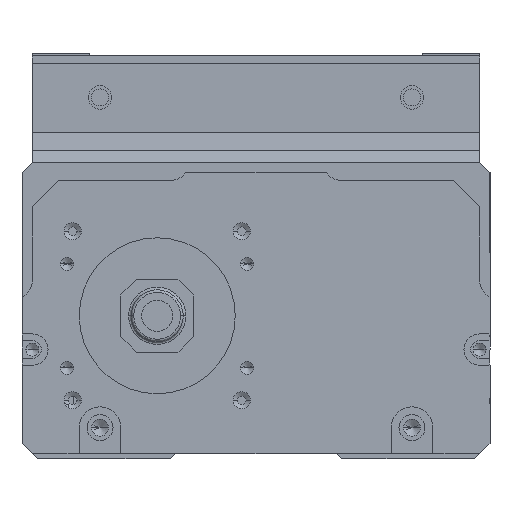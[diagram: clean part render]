
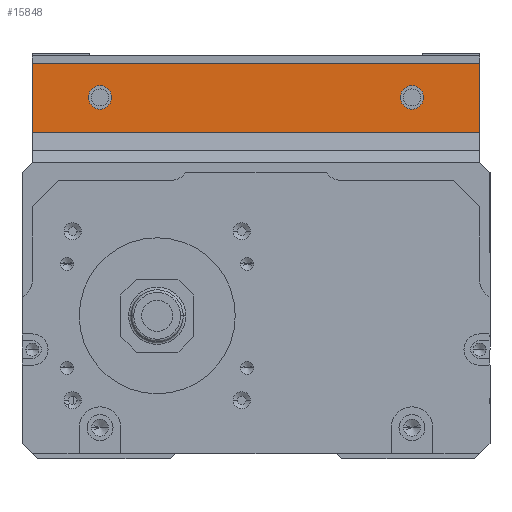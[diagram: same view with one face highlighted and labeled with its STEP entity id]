
A CAD part, front view. The second image highlights one B-rep face of the part: STEP entity #15848.
In plain terms, the highlighted planar face has unit normal (0, -1, 0).
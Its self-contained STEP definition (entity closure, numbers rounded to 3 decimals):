
#144 = CARTESIAN_POINT ( 'NONE',  ( -30., 78., -10.25 ) ) ;
#243 = VERTEX_POINT ( 'NONE', #144 ) ;
#298 = AXIS2_PLACEMENT_3D ( 'NONE', #2878, #1314, #5448 ) ;
#549 = VECTOR ( 'NONE', #12697, 1000. ) ;
#683 = DIRECTION ( 'NONE',  ( 0., 0., -1. ) ) ;
#1096 = EDGE_LOOP ( 'NONE', ( #7142, #6355, #1686, #10657 ) ) ;
#1219 = EDGE_CURVE ( 'NONE', #243, #12967, #3985, .T. ) ;
#1314 = DIRECTION ( 'NONE',  ( 0., 1., 0. ) ) ;
#1488 = ORIENTED_EDGE ( 'NONE', *, *, #5945, .T. ) ;
#1686 = ORIENTED_EDGE ( 'NONE', *, *, #6793, .T. ) ;
#2093 = LINE ( 'NONE', #14225, #7515 ) ;
#2322 = AXIS2_PLACEMENT_3D ( 'NONE', #14376, #15721, #683 ) ;
#2479 = VECTOR ( 'NONE', #16099, 1000. ) ;
#2733 = CARTESIAN_POINT ( 'NONE',  ( 43., 78., -14.788 ) ) ;
#2830 = AXIS2_PLACEMENT_3D ( 'NONE', #6957, #8222, #9458 ) ;
#2878 = CARTESIAN_POINT ( 'NONE',  ( 30., 78., -8. ) ) ;
#2995 = DIRECTION ( 'NONE',  ( 0., 1., 0. ) ) ;
#3397 = CARTESIAN_POINT ( 'NONE',  ( -30., 78., -5.75 ) ) ;
#3533 = CARTESIAN_POINT ( 'NONE',  ( 43., 78., -1.5 ) ) ;
#3837 = EDGE_CURVE ( 'NONE', #11959, #5665, #13124, .T. ) ;
#3985 = CIRCLE ( 'NONE', #10485, 2.25 ) ;
#4668 = ORIENTED_EDGE ( 'NONE', *, *, #3837, .T. ) ;
#4999 = CARTESIAN_POINT ( 'NONE',  ( 45., 78., -1.5 ) ) ;
#5006 = FACE_BOUND ( 'NONE', #15952, .T. ) ;
#5086 = EDGE_CURVE ( 'NONE', #12967, #243, #14198, .T. ) ;
#5380 = CARTESIAN_POINT ( 'NONE',  ( 30., 78., -10.25 ) ) ;
#5448 = DIRECTION ( 'NONE',  ( 0., 0., -1. ) ) ;
#5486 = CARTESIAN_POINT ( 'NONE',  ( -30., 78., -8. ) ) ;
#5659 = LINE ( 'NONE', #4999, #11079 ) ;
#5665 = VERTEX_POINT ( 'NONE', #5380 ) ;
#5713 = DIRECTION ( 'NONE',  ( 0., 1., 0. ) ) ;
#5766 = PLANE ( 'NONE',  #2830 ) ;
#5945 = EDGE_CURVE ( 'NONE', #5665, #11959, #14795, .T. ) ;
#6355 = ORIENTED_EDGE ( 'NONE', *, *, #16275, .T. ) ;
#6531 = VERTEX_POINT ( 'NONE', #2733 ) ;
#6793 = EDGE_CURVE ( 'NONE', #13783, #11591, #5659, .T. ) ;
#6957 = CARTESIAN_POINT ( 'NONE',  ( 45., 78., -1.5 ) ) ;
#7088 = DIRECTION ( 'NONE',  ( 0., 0., 1. ) ) ;
#7142 = ORIENTED_EDGE ( 'NONE', *, *, #14332, .F. ) ;
#7515 = VECTOR ( 'NONE', #15546, 1000. ) ;
#7746 = CARTESIAN_POINT ( 'NONE',  ( -30., 78., -8. ) ) ;
#8222 = DIRECTION ( 'NONE',  ( 0., -1., 0. ) ) ;
#8412 = AXIS2_PLACEMENT_3D ( 'NONE', #5486, #5713, #15584 ) ;
#9315 = CARTESIAN_POINT ( 'NONE',  ( -43., 78., -1.5 ) ) ;
#9394 = EDGE_CURVE ( 'NONE', #11591, #15406, #13314, .T. ) ;
#9458 = DIRECTION ( 'NONE',  ( 0., 0., -1. ) ) ;
#9932 = EDGE_LOOP ( 'NONE', ( #10168, #15358 ) ) ;
#10168 = ORIENTED_EDGE ( 'NONE', *, *, #1219, .T. ) ;
#10194 = DIRECTION ( 'NONE',  ( -1., 0., 0. ) ) ;
#10345 = CARTESIAN_POINT ( 'NONE',  ( -43., 78., -1.5 ) ) ;
#10408 = FACE_OUTER_BOUND ( 'NONE', #1096, .T. ) ;
#10485 = AXIS2_PLACEMENT_3D ( 'NONE', #7746, #2995, #7088 ) ;
#10657 = ORIENTED_EDGE ( 'NONE', *, *, #9394, .T. ) ;
#11079 = VECTOR ( 'NONE', #10194, 1000. ) ;
#11367 = LINE ( 'NONE', #11466, #549 ) ;
#11466 = CARTESIAN_POINT ( 'NONE',  ( 43., 78., -1.5 ) ) ;
#11591 = VERTEX_POINT ( 'NONE', #10345 ) ;
#11959 = VERTEX_POINT ( 'NONE', #16002 ) ;
#12697 = DIRECTION ( 'NONE',  ( 0., 0., 1. ) ) ;
#12967 = VERTEX_POINT ( 'NONE', #3397 ) ;
#13124 = CIRCLE ( 'NONE', #298, 2.25 ) ;
#13314 = LINE ( 'NONE', #9315, #2479 ) ;
#13783 = VERTEX_POINT ( 'NONE', #3533 ) ;
#14198 = CIRCLE ( 'NONE', #8412, 2.25 ) ;
#14225 = CARTESIAN_POINT ( 'NONE',  ( 45., 78., -14.788 ) ) ;
#14277 = CARTESIAN_POINT ( 'NONE',  ( -43., 78., -14.788 ) ) ;
#14332 = EDGE_CURVE ( 'NONE', #6531, #15406, #2093, .T. ) ;
#14376 = CARTESIAN_POINT ( 'NONE',  ( 30., 78., -8. ) ) ;
#14795 = CIRCLE ( 'NONE', #2322, 2.25 ) ;
#15358 = ORIENTED_EDGE ( 'NONE', *, *, #5086, .T. ) ;
#15406 = VERTEX_POINT ( 'NONE', #14277 ) ;
#15546 = DIRECTION ( 'NONE',  ( -1., 0., 0. ) ) ;
#15584 = DIRECTION ( 'NONE',  ( 0., 0., 1. ) ) ;
#15721 = DIRECTION ( 'NONE',  ( 0., 1., 0. ) ) ;
#15848 = ADVANCED_FACE ( 'NONE', ( #15875, #5006, #10408 ), #5766, .T. ) ;
#15875 = FACE_BOUND ( 'NONE', #9932, .T. ) ;
#15952 = EDGE_LOOP ( 'NONE', ( #1488, #4668 ) ) ;
#16002 = CARTESIAN_POINT ( 'NONE',  ( 30., 78., -5.75 ) ) ;
#16099 = DIRECTION ( 'NONE',  ( 0., 0., -1. ) ) ;
#16275 = EDGE_CURVE ( 'NONE', #6531, #13783, #11367, .T. ) ;
